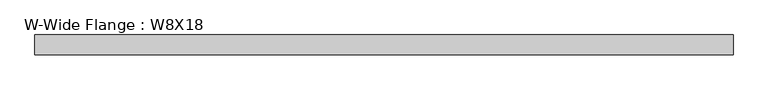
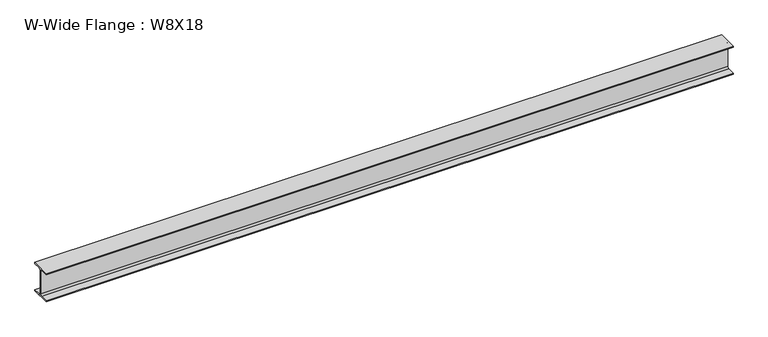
"""IFC4 building model written with IfcOpenShell, lengths in millimetres: beam geometry, W-Wide Flange : W8X18."""

from ifc_helpers import new_model, si_unit, point, frame, frame_2d, origin, place, context, project, spatial, polyline, circle_curve, trimmed, segment, composite_curve, outline, extrude, source, transform, mapped, element, save


def w_wide_flange_w8x18_5f46299d(model_context):
    return source(origin(), model_context, "Body", "SweptSolid", [
        extrude(outline(composite_curve([segment(polyline([(66.675, -94.996), (66.675, -103.378), (-66.675, -103.378), (-66.675, -94.996), (-15.1765, -94.996)]), True, "CONTINUOUS"), segment(trimmed(circle_curve(frame_2d((-15.1765, -82.7405)), 12.2555), [point((-15.1765, -94.996))], [point((-2.921, -82.7405))], True, "CARTESIAN"), True, "CONTINUOUS"), segment(polyline([(-2.921, -82.7405), (-2.921, 82.7405)]), True, "CONTINUOUS"), segment(trimmed(circle_curve(frame_2d((-15.1765, 82.7405)), 12.2555), [point((-2.921, 82.7405))], [point((-15.1765, 94.996))], True, "CARTESIAN"), True, "CONTINUOUS"), segment(polyline([(-15.1765, 94.996), (-66.675, 94.996), (-66.675, 103.378), (66.675, 103.378), (66.675, 94.996), (15.1765, 94.996)]), True, "CONTINUOUS"), segment(trimmed(circle_curve(frame_2d((15.1765, 82.7405)), 12.2555), [point((15.1765, 94.996))], [point((2.921, 82.7405))], True, "CARTESIAN"), True, "CONTINUOUS"), segment(polyline([(2.921, 82.7405), (2.921, -82.7405)]), True, "CONTINUOUS"), segment(trimmed(circle_curve(frame_2d((15.1765, -82.7405)), 12.2555), [point((2.921, -82.7405))], [point((15.1765, -94.996))], True, "CARTESIAN"), True, "CONTINUOUS"), segment(polyline([(15.1765, -94.996), (66.675, -94.996)]), True, "CONTINUOUS")], self_intersect=False)), frame((-2388.8051847, 0.0, 0.0), z_axis=(1.0, 0.0, 0.0), x_axis=(0.0, 1.0, 0.0)), (0.0, 0.0, 1.0), 4729.2974575),
    ])


if __name__ == "__main__":
    model = new_model("IFC4")
    model_context = context("Model", 3, world=origin())
    ifc_project = project(units=[si_unit("LENGTHUNIT", "METRE", prefix="MILLI")], contexts=[model_context])
    site = spatial("IfcSite", under=ifc_project)
    building = spatial("IfcBuilding", under=site)
    placement = place(None, origin())
    w_wide_flange_w8x18_shape = w_wide_flange_w8x18_5f46299d(model_context)
    element("IfcBeam", 1, ObjectType="W-Wide Flange : W8X18", at=placement, inside=building, context=model_context, shape_type="MappedRepresentation", body=[
        mapped(w_wide_flange_w8x18_shape, transform((0.0, 0.0, 0.0), x_axis=(1.0, 0.0, 0.0), y_axis=(0.0, 1.0, 0.0), z_axis=(0.0, 0.0, 1.0))),
    ])
    save(model, "model.ifc")
